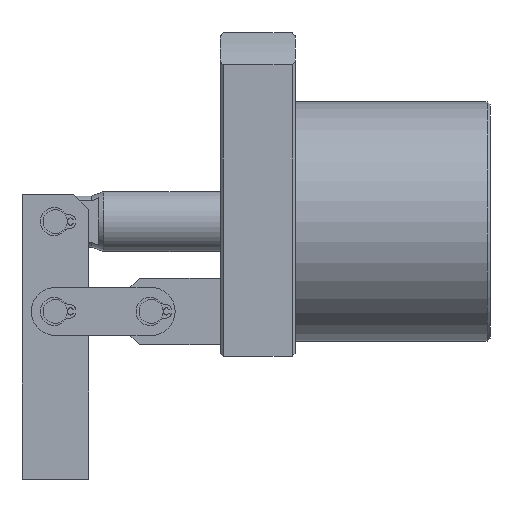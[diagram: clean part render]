
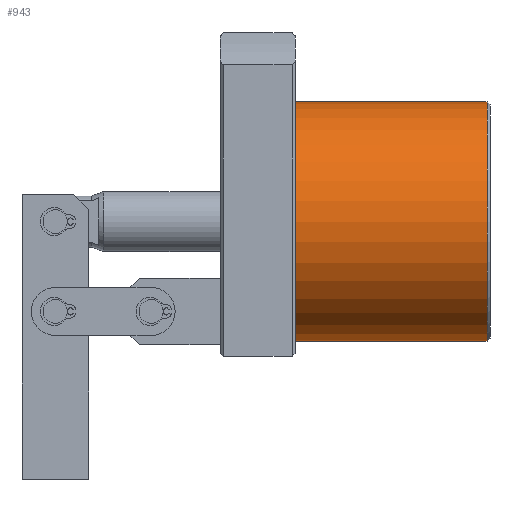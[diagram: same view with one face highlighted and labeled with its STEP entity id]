
A CAD part, left-side view. The second image highlights one B-rep face of the part: STEP entity #943.
In plain terms, the highlighted cylindrical face has radius 40 mm (diameter 80 mm), a full revolution.
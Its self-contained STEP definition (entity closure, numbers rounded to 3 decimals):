
#943=ADVANCED_FACE('',(#1246,#1247),#1148,.T.);
#1148=CYLINDRICAL_SURFACE('',#3465,40.);
#1246=FACE_BOUND('',#1365,.T.);
#1247=FACE_BOUND('',#1366,.T.);
#1365=EDGE_LOOP('',(#1675));
#1366=EDGE_LOOP('',(#1676));
#1675=ORIENTED_EDGE('',*,*,#2856,.T.);
#1676=ORIENTED_EDGE('',*,*,#2851,.T.);
#2530=VERTEX_POINT('',#4957);
#2533=VERTEX_POINT('',#4966);
#2851=EDGE_CURVE('',#2530,#2530,#3266,.T.);
#2856=EDGE_CURVE('',#2533,#2533,#3267,.T.);
#3266=CIRCLE('',#3462,40.);
#3267=CIRCLE('',#3464,40.);
#3462=AXIS2_PLACEMENT_3D('',#4956,#3917,#3918);
#3464=AXIS2_PLACEMENT_3D('',#4965,#3925,#3926);
#3465=AXIS2_PLACEMENT_3D('',#4967,#3927,#3928);
#3917=DIRECTION('',(0.,-1.,0.));
#3918=DIRECTION('',(0.,0.,-1.));
#3925=DIRECTION('',(0.,1.,0.));
#3926=DIRECTION('',(0.,0.,1.));
#3927=DIRECTION('',(0.,-1.,0.));
#3928=DIRECTION('',(0.,0.,-1.));
#4956=CARTESIAN_POINT('',(0.,65.,0.));
#4957=CARTESIAN_POINT('',(0.,65.,-40.));
#4965=CARTESIAN_POINT('',(0.,1.,0.));
#4966=CARTESIAN_POINT('',(0.,1.,40.));
#4967=CARTESIAN_POINT('',(0.,0.,0.));
